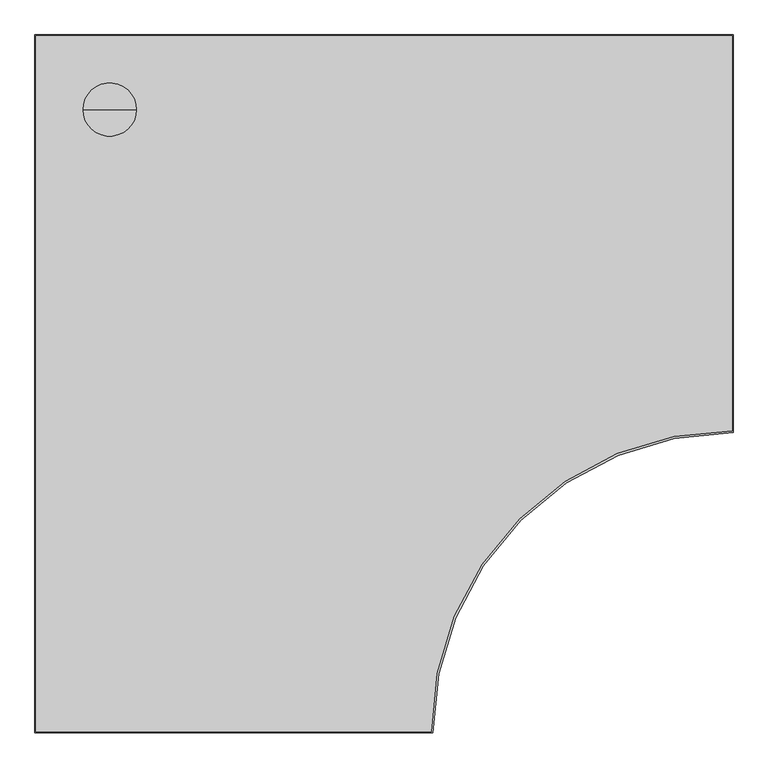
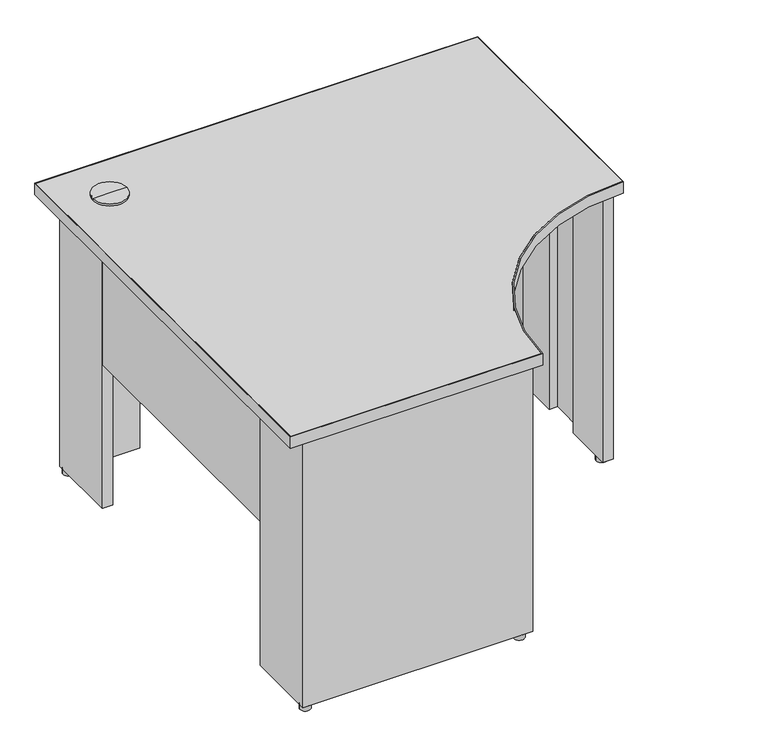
"""IFC4 building model written with IfcOpenShell, lengths in millimetres: furniture geometry, Steelcase - Kick Freestanding - Desk - Curve Corner - Partial Height Modesty Panel : 24D x 42W - Two Full Panel - LPL."""

from ifc_helpers import new_model, si_unit, point, frame, frame_2d, origin, origin_with_axes, place, context, project, spatial, polyline, circle_curve, trimmed, segment, composite_curve, outline, extrude, source, transform, mapped, element, save
from ifc_brep_helpers import plane_surface, cylinder_surface, advanced_brep


def furniture_739a7786(model_context):
    return source(origin(), model_context, "Body", "SolidModel", [
        extrude(outline(composite_curve([segment(trimmed(circle_curve(frame_2d((1038.8853521, -565.8064761)), 12.7), [point((1026.1853521, -565.8064761))], [point((1051.5853521, -565.8064761))], False, "CARTESIAN"), True, "CONTINUOUS"), segment(trimmed(circle_curve(frame_2d((1038.8853521, -565.8064761)), 12.7), [point((1051.5853521, -565.8064761))], [point((1026.1853521, -565.8064761))], False, "CARTESIAN"), True, "CONTINUOUS")], self_intersect=False)), origin_with_axes(), (0.0, 0.0, 1.0), 12.446),
        extrude(outline(composite_curve([segment(trimmed(circle_curve(frame_2d((566.7971133, -1039.8759893)), 12.7), [point((554.0971133, -1039.8759893))], [point((579.4971133, -1039.8759893))], False, "CARTESIAN"), True, "CONTINUOUS"), segment(trimmed(circle_curve(frame_2d((566.7971133, -1039.8759893)), 12.7), [point((579.4971133, -1039.8759893))], [point((554.0971133, -1039.8759893))], False, "CARTESIAN"), True, "CONTINUOUS")], self_intersect=False)), origin_with_axes(), (0.0, 0.0, 1.0), 12.446),
        extrude(outline(polyline([(215.8999939, -63.5), (63.5, -63.5), (63.5, -215.8999939), (38.1, -215.8999939), (38.1, -38.1), (215.8999939, -38.1), (215.8999939, -63.5)])), frame((0.0, 0.0, 12.446), z_axis=(0.0, 0.0, 1.0), x_axis=(1.0, 0.0, 0.0)), (0.0, 0.0, 1.0), 682.498),
        extrude(outline(polyline([(63.5, -875.0300194), (63.5, -1027.4300194), (161.3662, -1027.4300194), (161.3662, -1047.0895822), (261.0866, -1047.0895822), (261.0866, -1027.4300194), (369.824, -1027.4300194), (369.824, -1047.0895822), (469.5444, -1047.0895822), (469.5444, -1027.4300194), (592.582, -1027.4300194), (592.582, -1052.8299952), (38.1, -1052.8299952), (38.1, -875.0300194), (63.5, -875.0300194)])), frame((0.0, 0.0, 12.446), z_axis=(0.0, 0.0, 1.0), x_axis=(1.0, 0.0, 0.0)), (0.0, 0.0, 1.0), 682.498),
        extrude(outline(polyline([(874.0393822, -63.5), (874.0393822, -38.1), (1051.8393579, -38.1), (1051.8393579, -592.582), (1025.9313463, -592.582), (1025.9313463, -469.5444), (1046.098945, -469.5444), (1046.098945, -369.824), (1025.9313463, -369.824), (1025.9313463, -261.0866), (1046.098945, -261.0866), (1046.098945, -161.3662), (1025.9313463, -161.3662), (1025.9313463, -63.5), (874.0393822, -63.5)])), frame((0.0, 0.0, 12.446), z_axis=(0.0, 0.0, 1.0), x_axis=(1.0, 0.0, 0.0)), (0.0, 0.0, 1.0), 682.498),
        advanced_brep(
        [(114.3, -114.3, 728.98), (154.94, -114.3, 728.98), (73.66, -114.3, 728.98), (76.1699693, -114.3, 694.944), (152.4300307, -114.3, 694.944), (114.3, -114.3, 694.944), (76.1699693, -114.3, 723.9), (152.4300307, -114.3, 723.9), (73.66, -114.3, 723.9), (154.94, -114.3, 723.9)],
        [
            (0, 1),
            (1, 2, circle_curve(frame((114.3, -114.3, 728.98), z_axis=(0.0, 0.0, 1.0), x_axis=(1.0, 0.0, 0.0)), 40.64)),
            (2, 0),
            (2, 1, circle_curve(frame((114.3, -114.3, 728.98), z_axis=(0.0, 0.0, 1.0), x_axis=(1.0, 0.0, 0.0)), 40.64)),
            (3, 4, circle_curve(frame((114.3, -114.3, 694.944), z_axis=(0.0, 0.0, -1.0), x_axis=(1.0, 0.0, 0.0)), 38.1300307)),
            (4, 5),
            (5, 3),
            (4, 3, circle_curve(frame((114.3, -114.3, 694.944), z_axis=(0.0, 0.0, -1.0), x_axis=(1.0, 0.0, 0.0)), 38.1300307)),
            (6, 7, circle_curve(frame((114.3, -114.3, 723.9), z_axis=(0.0, 0.0, -1.0), x_axis=(1.0, 0.0, 0.0)), 38.1300307)),
            (7, 4),
            (3, 6),
            (7, 6, circle_curve(frame((114.3, -114.3, 723.9), z_axis=(0.0, 0.0, -1.0), x_axis=(1.0, 0.0, 0.0)), 38.1300307)),
            (8, 9, circle_curve(frame((114.3, -114.3, 723.9), z_axis=(0.0, 0.0, -1.0), x_axis=(1.0, 0.0, 0.0)), 40.64)),
            (9, 7),
            (6, 8),
            (9, 8, circle_curve(frame((114.3, -114.3, 723.9), z_axis=(0.0, 0.0, -1.0), x_axis=(1.0, 0.0, 0.0)), 40.64)),
            (1, 9),
            (8, 2),
        ],
        [
            plane_surface(frame((114.3, -114.3, 728.98), z_axis=(0.0, 0.0, 1.0), x_axis=(1.0, 0.0, 0.0))),
            plane_surface(frame((114.3, -114.3, 694.944), z_axis=(0.0, 0.0, -1.0), x_axis=(1.0, 0.0, 0.0))),
            cylinder_surface(frame((114.3, -114.3, 728.98), z_axis=(0.0, 0.0, 1.0), x_axis=(1.0, 0.0, 0.0)), 38.1300307),
            plane_surface(frame((114.3, -114.3, 723.9), z_axis=(0.0, 0.0, -1.0), x_axis=(1.0, 0.0, 0.0))),
            cylinder_surface(frame((114.3, -114.3, 728.98), z_axis=(0.0, 0.0, 1.0), x_axis=(1.0, 0.0, 0.0)), 40.64),
        ],
        [
            (0, [[1, 2, 3]]),
            (0, [[-3, 4, -1]]),
            (1, [[5, 6, 7]]),
            (1, [[8, -7, -6]]),
            (2, [[9, 10, -5, 11]]),
            (2, [[12, -11, -8, -10]]),
            (3, [[13, 14, -9, 15]]),
            (3, [[16, -15, -12, -14]]),
            (4, [[-2, 17, -13, 18]]),
            (4, [[-4, -18, -16, -17]]),
        ],
    ),
        extrude(outline(composite_curve([segment(trimmed(circle_curve(frame_2d((50.8, -50.8)), 12.7), [point((38.1, -50.8))], [point((63.5, -50.8))], False, "CARTESIAN"), True, "CONTINUOUS"), segment(trimmed(circle_curve(frame_2d((50.8, -50.8)), 12.7), [point((63.5, -50.8))], [point((38.1, -50.8))], False, "CARTESIAN"), True, "CONTINUOUS")], self_intersect=False)), origin_with_axes(), (0.0, 0.0, 1.0), 12.446),
        extrude(outline(composite_curve([segment(trimmed(circle_curve(frame_2d((50.8, -1040.1300073)), 12.7484998), [point((38.0515002, -1040.1300073))], [point((63.5484998, -1040.1300073))], False, "CARTESIAN"), True, "CONTINUOUS"), segment(trimmed(circle_curve(frame_2d((50.8, -1040.1300073)), 12.7484998), [point((63.5484998, -1040.1300073))], [point((38.0515002, -1040.1300073))], False, "CARTESIAN"), True, "CONTINUOUS")], self_intersect=False)), origin_with_axes(), (0.0, 0.0, 1.0), 12.446),
        extrude(outline(composite_curve([segment(trimmed(circle_curve(frame_2d((1038.8853521, -50.8)), 12.7), [point((1026.1853521, -50.8))], [point((1051.5853521, -50.8))], False, "CARTESIAN"), True, "CONTINUOUS"), segment(trimmed(circle_curve(frame_2d((1038.8853521, -50.8)), 12.7), [point((1051.5853521, -50.8))], [point((1026.1853521, -50.8))], False, "CARTESIAN"), True, "CONTINUOUS")], self_intersect=False)), origin_with_axes(), (0.0, 0.0, 1.0), 12.446),
        extrude(outline(polyline([(63.5, -215.8999939), (63.5, -875.0300194), (38.1, -875.0300194), (38.1, -215.8999939), (63.5, -215.8999939)])), frame((0.0, 0.0, 379.476), z_axis=(0.0, 0.0, 1.0), x_axis=(1.0, 0.0, 0.0)), (0.0, 0.0, 1.0), 315.468),
        extrude(outline(polyline([(874.0393822, -38.1), (874.0393822, -63.5), (215.8999939, -63.5), (215.8999939, -38.1), (874.0393822, -38.1)])), frame((0.0, 0.0, 379.476), z_axis=(0.0, 0.0, 1.0), x_axis=(1.0, 0.0, 0.0)), (0.0, 0.0, 1.0), 315.468),
        extrude(outline(composite_curve([segment(polyline([(0.9906, -1065.8093628), (0.9906, -0.9906), (1065.8093628, -0.9906), (1065.8093628, -605.3354109)]), True, "CONTINUOUS"), segment(trimmed(circle_curve(frame_2d((1064.5393458, -1064.5393458)), 459.2056912), [point((1065.8093628, -605.3354109))], [point((605.3354109, -1065.8093628))], True, "CARTESIAN"), True, "CONTINUOUS"), segment(polyline([(605.3354109, -1065.8093628), (0.9906, -1065.8093628)]), True, "CONTINUOUS")], self_intersect=False)), frame((0.0, 0.0, 694.944), z_axis=(0.0, 0.0, 1.0), x_axis=(1.0, 0.0, 0.0)), (0.0, 0.0, 1.0), 28.956),
        extrude(outline(composite_curve([segment(polyline([(1066.8, 0.0), (1066.8, -608.332629)]), True, "CONTINUOUS"), segment(trimmed(circle_curve(frame_2d((1065.529983, -1065.529983)), 457.199118), [point((1066.8, -608.332629))], [point((608.332629, -1066.8))], True, "CARTESIAN"), True, "CONTINUOUS"), segment(polyline([(608.332629, -1066.8), (0.0, -1066.8), (0.0, 0.0), (1066.8, 0.0)]), True, "CONTINUOUS")], self_intersect=False), holes=[composite_curve([segment(polyline([(1065.8093628, -0.9906), (0.9906, -0.9906), (0.9906, -1065.8093628), (605.3354109, -1065.8093628)]), True, "CONTINUOUS"), segment(trimmed(circle_curve(frame_2d((1064.5393458, -1064.5393458)), 459.2056912), [point((605.3354109, -1065.8093628))], [point((1065.8093628, -605.3354109))], False, "CARTESIAN"), True, "CONTINUOUS"), segment(polyline([(1065.8093628, -605.3354109), (1065.8093628, -0.9906)]), True, "CONTINUOUS")], self_intersect=False)]), frame((0.0, 0.0, 694.944), z_axis=(0.0, 0.0, 1.0), x_axis=(1.0, 0.0, 0.0)), (0.0, 0.0, 1.0), 28.956),
    ])


if __name__ == "__main__":
    model = new_model("IFC4")
    model_context = context("Model", 3, world=origin())
    ifc_project = project(units=[si_unit("LENGTHUNIT", "METRE", prefix="MILLI")], contexts=[model_context])
    site = spatial("IfcSite", under=ifc_project)
    building = spatial("IfcBuilding", under=site)
    placement = place(None, origin())
    furniture_shape = furniture_739a7786(model_context)
    element("IfcFurniture", 1, ObjectType="Steelcase - Kick Freestanding - Desk - Curve Corner - Partial Height Modesty Panel : 24D x 42W - Two Full Panel - LPL", at=placement, inside=building, context=model_context, shape_type="MappedRepresentation", body=[
        mapped(furniture_shape, transform((0.0, 0.0, 0.0), x_axis=(1.0, 0.0, 0.0), y_axis=(0.0, 1.0, 0.0), z_axis=(0.0, 0.0, 1.0))),
    ])
    save(model, "model.ifc")
